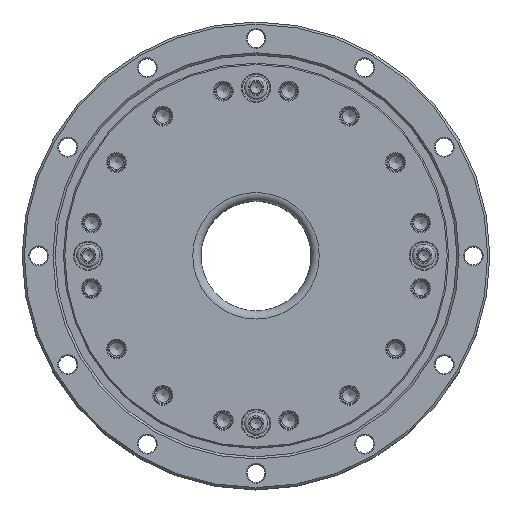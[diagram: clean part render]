
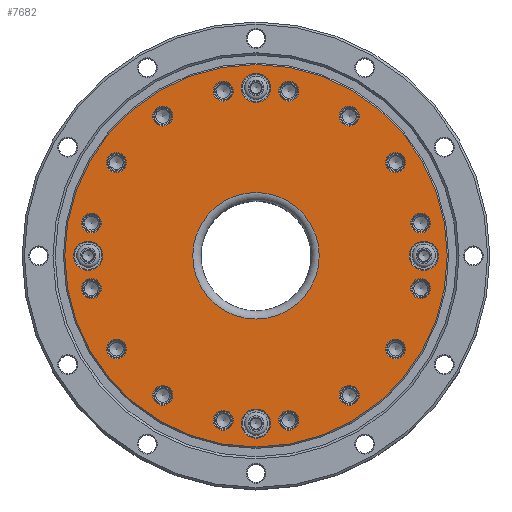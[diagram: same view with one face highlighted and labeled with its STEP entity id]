
A CAD part, top view. The second image highlights one B-rep face of the part: STEP entity #7682.
In plain terms, the highlighted planar face has unit normal (0, 0, 1).
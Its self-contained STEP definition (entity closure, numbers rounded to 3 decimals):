
#3743=FACE_BOUND('',#11825,.T.);
#3744=FACE_BOUND('',#11826,.T.);
#3745=FACE_BOUND('',#11827,.T.);
#3746=FACE_BOUND('',#11828,.T.);
#3747=FACE_BOUND('',#11829,.T.);
#3748=FACE_BOUND('',#11830,.T.);
#3749=FACE_BOUND('',#11831,.T.);
#3750=FACE_BOUND('',#11832,.T.);
#3751=FACE_BOUND('',#11833,.T.);
#3752=FACE_BOUND('',#11834,.T.);
#3753=FACE_BOUND('',#11835,.T.);
#3754=FACE_BOUND('',#11836,.T.);
#3755=FACE_BOUND('',#11837,.T.);
#3756=FACE_BOUND('',#11838,.T.);
#3757=FACE_BOUND('',#11839,.T.);
#3758=FACE_BOUND('',#11840,.T.);
#3759=FACE_BOUND('',#11841,.T.);
#3760=FACE_BOUND('',#11842,.T.);
#3761=FACE_BOUND('',#11843,.T.);
#3762=FACE_BOUND('',#11844,.T.);
#3763=FACE_BOUND('',#11845,.T.);
#3764=FACE_BOUND('',#11846,.T.);
#5880=CIRCLE('',#28291,5.3);
#5881=CIRCLE('',#28292,5.3);
#5882=CIRCLE('',#28293,5.3);
#5883=CIRCLE('',#28294,5.3);
#5884=CIRCLE('',#28295,3.6);
#5885=CIRCLE('',#28296,3.6);
#5886=CIRCLE('',#28297,3.6);
#5887=CIRCLE('',#28298,3.6);
#5888=CIRCLE('',#28299,3.6);
#5889=CIRCLE('',#28300,3.6);
#5890=CIRCLE('',#28301,3.6);
#5891=CIRCLE('',#28302,3.6);
#5892=CIRCLE('',#28303,3.6);
#5893=CIRCLE('',#28304,3.6);
#5894=CIRCLE('',#28305,3.6);
#5895=CIRCLE('',#28306,3.6);
#5896=CIRCLE('',#28307,3.6);
#5897=CIRCLE('',#28308,3.6);
#5898=CIRCLE('',#28309,3.6);
#5899=CIRCLE('',#28310,3.6);
#5900=CIRCLE('',#28311,69.5);
#5901=CIRCLE('',#28312,23.);
#7682=ADVANCED_FACE('',(#3743,#3744,#3745,#3746,#3747,#3748,#3749,#3750,
#3751,#3752,#3753,#3754,#3755,#3756,#3757,#3758,#3759,#3760,#3761,#3762,
#3763,#3764),#9039,.T.);
#9039=PLANE('',#28313);
#11825=EDGE_LOOP('',(#16050));
#11826=EDGE_LOOP('',(#16051));
#11827=EDGE_LOOP('',(#16052));
#11828=EDGE_LOOP('',(#16053));
#11829=EDGE_LOOP('',(#16054));
#11830=EDGE_LOOP('',(#16055));
#11831=EDGE_LOOP('',(#16056));
#11832=EDGE_LOOP('',(#16057));
#11833=EDGE_LOOP('',(#16058));
#11834=EDGE_LOOP('',(#16059));
#11835=EDGE_LOOP('',(#16060));
#11836=EDGE_LOOP('',(#16061));
#11837=EDGE_LOOP('',(#16062));
#11838=EDGE_LOOP('',(#16063));
#11839=EDGE_LOOP('',(#16064));
#11840=EDGE_LOOP('',(#16065));
#11841=EDGE_LOOP('',(#16066));
#11842=EDGE_LOOP('',(#16067));
#11843=EDGE_LOOP('',(#16068));
#11844=EDGE_LOOP('',(#16069));
#11845=EDGE_LOOP('',(#16070));
#11846=EDGE_LOOP('',(#16071));
#16050=ORIENTED_EDGE('',*,*,#23071,.T.);
#16051=ORIENTED_EDGE('',*,*,#23072,.T.);
#16052=ORIENTED_EDGE('',*,*,#23073,.T.);
#16053=ORIENTED_EDGE('',*,*,#23074,.T.);
#16054=ORIENTED_EDGE('',*,*,#23075,.T.);
#16055=ORIENTED_EDGE('',*,*,#23076,.T.);
#16056=ORIENTED_EDGE('',*,*,#23077,.T.);
#16057=ORIENTED_EDGE('',*,*,#23078,.T.);
#16058=ORIENTED_EDGE('',*,*,#23079,.T.);
#16059=ORIENTED_EDGE('',*,*,#23080,.T.);
#16060=ORIENTED_EDGE('',*,*,#23081,.T.);
#16061=ORIENTED_EDGE('',*,*,#23082,.T.);
#16062=ORIENTED_EDGE('',*,*,#23083,.T.);
#16063=ORIENTED_EDGE('',*,*,#23084,.T.);
#16064=ORIENTED_EDGE('',*,*,#23085,.T.);
#16065=ORIENTED_EDGE('',*,*,#23086,.T.);
#16066=ORIENTED_EDGE('',*,*,#23087,.T.);
#16067=ORIENTED_EDGE('',*,*,#23088,.T.);
#16068=ORIENTED_EDGE('',*,*,#23089,.T.);
#16069=ORIENTED_EDGE('',*,*,#23090,.T.);
#16070=ORIENTED_EDGE('',*,*,#23091,.T.);
#16071=ORIENTED_EDGE('',*,*,#23092,.T.);
#20667=VERTEX_POINT('',#42177);
#20668=VERTEX_POINT('',#42179);
#20669=VERTEX_POINT('',#42181);
#20670=VERTEX_POINT('',#42183);
#20671=VERTEX_POINT('',#42185);
#20672=VERTEX_POINT('',#42187);
#20673=VERTEX_POINT('',#42189);
#20674=VERTEX_POINT('',#42191);
#20675=VERTEX_POINT('',#42193);
#20676=VERTEX_POINT('',#42195);
#20677=VERTEX_POINT('',#42197);
#20678=VERTEX_POINT('',#42199);
#20679=VERTEX_POINT('',#42201);
#20680=VERTEX_POINT('',#42203);
#20681=VERTEX_POINT('',#42205);
#20682=VERTEX_POINT('',#42207);
#20683=VERTEX_POINT('',#42209);
#20684=VERTEX_POINT('',#42211);
#20685=VERTEX_POINT('',#42213);
#20686=VERTEX_POINT('',#42215);
#20687=VERTEX_POINT('',#42217);
#20688=VERTEX_POINT('',#42219);
#23071=EDGE_CURVE('',#20667,#20667,#5880,.T.);
#23072=EDGE_CURVE('',#20668,#20668,#5881,.T.);
#23073=EDGE_CURVE('',#20669,#20669,#5882,.T.);
#23074=EDGE_CURVE('',#20670,#20670,#5883,.T.);
#23075=EDGE_CURVE('',#20671,#20671,#5884,.T.);
#23076=EDGE_CURVE('',#20672,#20672,#5885,.T.);
#23077=EDGE_CURVE('',#20673,#20673,#5886,.T.);
#23078=EDGE_CURVE('',#20674,#20674,#5887,.T.);
#23079=EDGE_CURVE('',#20675,#20675,#5888,.T.);
#23080=EDGE_CURVE('',#20676,#20676,#5889,.T.);
#23081=EDGE_CURVE('',#20677,#20677,#5890,.T.);
#23082=EDGE_CURVE('',#20678,#20678,#5891,.T.);
#23083=EDGE_CURVE('',#20679,#20679,#5892,.T.);
#23084=EDGE_CURVE('',#20680,#20680,#5893,.T.);
#23085=EDGE_CURVE('',#20681,#20681,#5894,.T.);
#23086=EDGE_CURVE('',#20682,#20682,#5895,.T.);
#23087=EDGE_CURVE('',#20683,#20683,#5896,.T.);
#23088=EDGE_CURVE('',#20684,#20684,#5897,.T.);
#23089=EDGE_CURVE('',#20685,#20685,#5898,.T.);
#23090=EDGE_CURVE('',#20686,#20686,#5899,.T.);
#23091=EDGE_CURVE('',#20687,#20687,#5900,.T.);
#23092=EDGE_CURVE('',#20688,#20688,#5901,.T.);
#28291=AXIS2_PLACEMENT_3D('',#42176,#33952,#33953);
#28292=AXIS2_PLACEMENT_3D('',#42178,#33954,#33955);
#28293=AXIS2_PLACEMENT_3D('',#42180,#33956,#33957);
#28294=AXIS2_PLACEMENT_3D('',#42182,#33958,#33959);
#28295=AXIS2_PLACEMENT_3D('',#42184,#33960,#33961);
#28296=AXIS2_PLACEMENT_3D('',#42186,#33962,#33963);
#28297=AXIS2_PLACEMENT_3D('',#42188,#33964,#33965);
#28298=AXIS2_PLACEMENT_3D('',#42190,#33966,#33967);
#28299=AXIS2_PLACEMENT_3D('',#42192,#33968,#33969);
#28300=AXIS2_PLACEMENT_3D('',#42194,#33970,#33971);
#28301=AXIS2_PLACEMENT_3D('',#42196,#33972,#33973);
#28302=AXIS2_PLACEMENT_3D('',#42198,#33974,#33975);
#28303=AXIS2_PLACEMENT_3D('',#42200,#33976,#33977);
#28304=AXIS2_PLACEMENT_3D('',#42202,#33978,#33979);
#28305=AXIS2_PLACEMENT_3D('',#42204,#33980,#33981);
#28306=AXIS2_PLACEMENT_3D('',#42206,#33982,#33983);
#28307=AXIS2_PLACEMENT_3D('',#42208,#33984,#33985);
#28308=AXIS2_PLACEMENT_3D('',#42210,#33986,#33987);
#28309=AXIS2_PLACEMENT_3D('',#42212,#33988,#33989);
#28310=AXIS2_PLACEMENT_3D('',#42214,#33990,#33991);
#28311=AXIS2_PLACEMENT_3D('',#42216,#33992,#33993);
#28312=AXIS2_PLACEMENT_3D('',#42218,#33994,#33995);
#28313=AXIS2_PLACEMENT_3D('',#42220,#33996,#33997);
#33952=DIRECTION('',(0.,0.,-1.));
#33953=DIRECTION('',(1.,0.,0.));
#33954=DIRECTION('',(0.,0.,-1.));
#33955=DIRECTION('',(1.,0.,0.));
#33956=DIRECTION('',(0.,0.,-1.));
#33957=DIRECTION('',(1.,0.,0.));
#33958=DIRECTION('',(0.,0.,-1.));
#33959=DIRECTION('',(1.,0.,0.));
#33960=DIRECTION('',(0.,0.,-1.));
#33961=DIRECTION('',(1.,0.,0.));
#33962=DIRECTION('',(0.,0.,-1.));
#33963=DIRECTION('',(1.,0.,0.));
#33964=DIRECTION('',(0.,0.,-1.));
#33965=DIRECTION('',(1.,0.,0.));
#33966=DIRECTION('',(0.,0.,-1.));
#33967=DIRECTION('',(1.,0.,0.));
#33968=DIRECTION('',(0.,0.,-1.));
#33969=DIRECTION('',(1.,0.,0.));
#33970=DIRECTION('',(0.,0.,-1.));
#33971=DIRECTION('',(1.,0.,0.));
#33972=DIRECTION('',(0.,0.,-1.));
#33973=DIRECTION('',(1.,0.,0.));
#33974=DIRECTION('',(0.,0.,-1.));
#33975=DIRECTION('',(1.,0.,0.));
#33976=DIRECTION('',(0.,0.,-1.));
#33977=DIRECTION('',(1.,0.,0.));
#33978=DIRECTION('',(0.,0.,-1.));
#33979=DIRECTION('',(1.,0.,0.));
#33980=DIRECTION('',(0.,0.,-1.));
#33981=DIRECTION('',(1.,0.,0.));
#33982=DIRECTION('',(0.,0.,-1.));
#33983=DIRECTION('',(1.,0.,0.));
#33984=DIRECTION('',(0.,0.,-1.));
#33985=DIRECTION('',(1.,0.,0.));
#33986=DIRECTION('',(0.,0.,-1.));
#33987=DIRECTION('',(1.,0.,0.));
#33988=DIRECTION('',(0.,0.,-1.));
#33989=DIRECTION('',(1.,0.,0.));
#33990=DIRECTION('',(0.,0.,-1.));
#33991=DIRECTION('',(1.,0.,0.));
#33992=DIRECTION('',(0.,0.,1.));
#33993=DIRECTION('',(1.,0.,0.));
#33994=DIRECTION('',(0.,0.,-1.));
#33995=DIRECTION('',(1.,0.,0.));
#33996=DIRECTION('',(0.,0.,1.));
#33997=DIRECTION('',(-1.,0.,0.));
#42176=CARTESIAN_POINT('',(0.,61.,73.25));
#42177=CARTESIAN_POINT('',(5.3,61.,73.25));
#42178=CARTESIAN_POINT('',(-61.,0.,73.25));
#42179=CARTESIAN_POINT('',(-55.7,0.,73.25));
#42180=CARTESIAN_POINT('',(0.,-61.,73.25));
#42181=CARTESIAN_POINT('',(5.3,-61.,73.25));
#42182=CARTESIAN_POINT('',(61.,0.,73.25));
#42183=CARTESIAN_POINT('',(66.3,0.,73.25));
#42184=CARTESIAN_POINT('',(50.72,33.89,73.25));
#42185=CARTESIAN_POINT('',(54.32,33.89,73.25));
#42186=CARTESIAN_POINT('',(33.89,50.72,73.25));
#42187=CARTESIAN_POINT('',(37.49,50.72,73.25));
#42188=CARTESIAN_POINT('',(11.901,59.828,73.25));
#42189=CARTESIAN_POINT('',(15.501,59.828,73.25));
#42190=CARTESIAN_POINT('',(-11.901,59.828,73.25));
#42191=CARTESIAN_POINT('',(-8.301,59.828,73.25));
#42192=CARTESIAN_POINT('',(-33.89,50.72,73.25));
#42193=CARTESIAN_POINT('',(-30.29,50.72,73.25));
#42194=CARTESIAN_POINT('',(-50.72,33.89,73.25));
#42195=CARTESIAN_POINT('',(-47.12,33.89,73.25));
#42196=CARTESIAN_POINT('',(-59.828,11.901,73.25));
#42197=CARTESIAN_POINT('',(-56.228,11.901,73.25));
#42198=CARTESIAN_POINT('',(-59.828,-11.901,73.25));
#42199=CARTESIAN_POINT('',(-56.228,-11.901,73.25));
#42200=CARTESIAN_POINT('',(-50.72,-33.89,73.25));
#42201=CARTESIAN_POINT('',(-47.12,-33.89,73.25));
#42202=CARTESIAN_POINT('',(-33.89,-50.72,73.25));
#42203=CARTESIAN_POINT('',(-30.29,-50.72,73.25));
#42204=CARTESIAN_POINT('',(-11.901,-59.828,73.25));
#42205=CARTESIAN_POINT('',(-8.301,-59.828,73.25));
#42206=CARTESIAN_POINT('',(11.901,-59.828,73.25));
#42207=CARTESIAN_POINT('',(15.501,-59.828,73.25));
#42208=CARTESIAN_POINT('',(33.89,-50.72,73.25));
#42209=CARTESIAN_POINT('',(37.49,-50.72,73.25));
#42210=CARTESIAN_POINT('',(50.72,-33.89,73.25));
#42211=CARTESIAN_POINT('',(54.32,-33.89,73.25));
#42212=CARTESIAN_POINT('',(59.828,-11.901,73.25));
#42213=CARTESIAN_POINT('',(63.428,-11.901,73.25));
#42214=CARTESIAN_POINT('',(59.828,11.901,73.25));
#42215=CARTESIAN_POINT('',(63.428,11.901,73.25));
#42216=CARTESIAN_POINT('',(0.,0.,73.25));
#42217=CARTESIAN_POINT('',(69.5,0.,73.25));
#42218=CARTESIAN_POINT('',(0.,0.,73.25));
#42219=CARTESIAN_POINT('',(23.,0.,73.25));
#42220=CARTESIAN_POINT('',(0.,70.,73.25));
